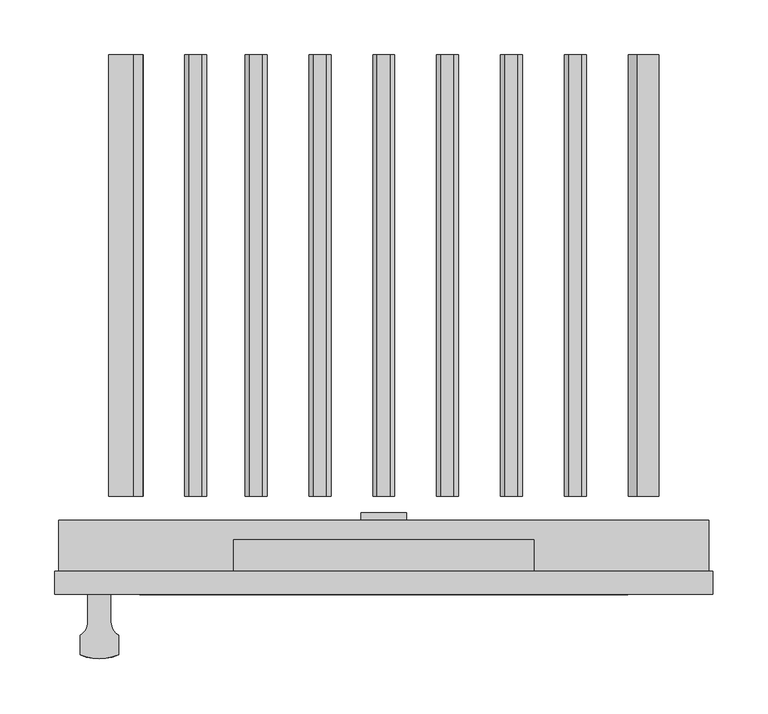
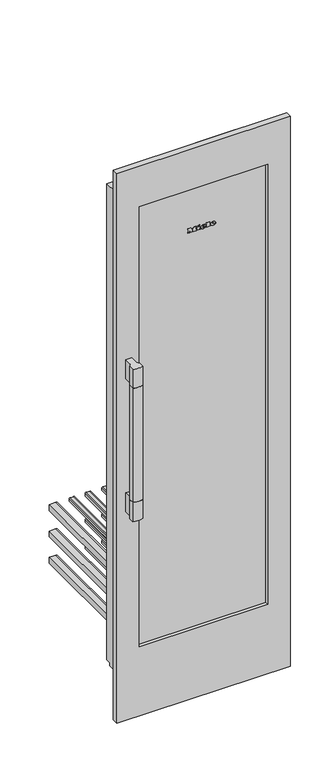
"""IFC4 building model written with IfcOpenShell, lengths in millimetres: proxy geometry, 11503620_USA_KWT2602SF : 36260215_USA_11503620_KWT2602SF."""

from ifc_helpers import new_model, si_unit, point, frame, frame_2d, origin, place, context, project, spatial, polyline, circle_curve, ellipse_curve, trimmed, segment, composite_curve, outline, extrude, faceted_brep, source, transform, mapped, element, save
from ifc_brep_helpers import plane_surface, cylinder_surface, revolved_surface, extruded_surface, advanced_brep


def specialty_equipment_13b0aeb5(model_context):
    return source(origin(), model_context, "Body", "SolidModel", [
        faceted_brep([(21.0, 75.0, 229.0), (6.5, 75.0, 229.0), (6.5, 75.0, 98.0), (-6.5, 75.0, 98.0), (-6.5, 75.0, 229.0), (-21.0, 75.0, 229.0), (-21.0, 75.0, 267.0), (21.0, 75.0, 267.0), (-21.0, 21.0, 270.0), (-21.0, 21.0, 229.0), (-6.5, 21.0, 229.0), (-6.5, 21.0, 98.0), (6.5, 21.0, 98.0), (6.5, 21.0, 229.0), (21.0, 21.0, 229.0), (21.0, 21.0, 270.0), (21.0, 68.0, 270.0), (-21.0, 68.0, 270.0), (21.0, 68.0, 267.0), (-21.0, 68.0, 267.0)], [[[0, 1, 2, 3, 4, 5, 6, 7]], [[8, 9, 10, 11, 12, 13, 14, 15]], [[8, 15, 16, 17]], [[15, 14, 0, 7, 18, 16]], [[1, 0, 14, 13]], [[2, 1, 13, 12]], [[3, 2, 12, 11]], [[4, 3, 11, 10]], [[5, 4, 10, 9]], [[9, 8, 17, 19, 6, 5]], [[19, 18, 7, 6]], [[18, 19, 17, 16]]]),
        extrude(outline(polyline([(-223.5, 32.0), (223.5, 32.0), (223.5, 12.0), (-223.5, 12.0), (-223.5, 32.0)])), frame((0.0, 0.0, 344.0), z_axis=(0.0, 0.0, 1.0), x_axis=(1.0, 0.0, 0.0)), (0.0, 0.0, 1.0), 1620.0),
        extrude(outline(polyline([(2113.0, 301.5), (2113.0, -301.5), (90.0, -301.5), (90.0, 301.5), (2113.0, 301.5)]), holes=[polyline([(1964.0, 223.5), (344.0, 223.5), (344.0, -223.5), (1964.0, -223.5), (1964.0, 223.5)])]), frame((0.0, 0.0, 0.0), z_axis=(0.0, 1.0, 0.0), x_axis=(0.0, 0.0, 1.0)), (0.0, 0.0, 1.0), 21.0),
        extrude(outline(polyline([(-137.5, 50.0), (137.5, 50.0), (137.5, 21.0), (-137.5, 21.0), (-137.5, 50.0)])), frame((0.0, 0.0, 2034.0), z_axis=(0.0, 0.0, 1.0), x_axis=(1.0, 0.0, 0.0)), (0.0, 0.0, 1.0), 56.0),
        faceted_brep([(-297.5, 68.0, 2034.0), (-297.5, 68.0, 281.0), (-297.5, 50.0, 281.0), (-297.5, 50.0, 270.0), (-297.5, 21.0, 270.0), (-297.5, 21.0, 2034.0), (297.5, 68.0, 2034.0), (297.5, 21.0, 2034.0), (297.5, 21.0, 270.0), (297.5, 50.0, 270.0), (297.5, 50.0, 281.0), (297.5, 68.0, 281.0), (223.5, 21.0, 1964.0), (223.5, 21.0, 344.0), (-223.5, 21.0, 344.0), (-223.5, 21.0, 1964.0), (223.5, 68.0, 344.0), (223.5, 68.0, 1964.0), (-223.5, 68.0, 1964.0), (-223.5, 68.0, 344.0)], [[[0, 1, 2, 3, 4, 5]], [[6, 7, 8, 9, 10, 11]], [[0, 5, 7, 6]], [[5, 4, 8, 7], [12, 13, 14, 15]], [[4, 3, 9, 8]], [[3, 2, 10, 9]], [[2, 1, 11, 10]], [[1, 0, 6, 11], [16, 17, 18, 19]], [[12, 17, 16, 13]], [[13, 16, 19, 14]], [[14, 19, 18, 15]], [[17, 12, 15, 18]]]),
        advanced_brep(
        [(-250.0, 0.0, 928.0), (-271.0, 0.0, 928.0), (-271.0, -24.4390599, 928.0), (-278.0, -37.4390599, 928.0), (-278.0, -55.0, 928.0), (-260.5, -59.0, 928.0), (-243.0, -55.0, 928.0), (-243.0, -37.4390599, 928.0), (-250.0, -24.4390599, 928.0), (-243.0, -37.4390599, 858.0), (-243.0, -55.0, 858.0), (-260.5, -59.0, 858.0), (-278.0, -55.0, 858.0), (-278.0, -37.4390599, 858.0), (-271.0, -24.4390599, 858.0), (-271.0, 0.0, 858.0), (-250.0, 0.0, 858.0), (-250.0, -24.4390599, 858.0)],
        [
            (0, 1),
            (1, 2),
            (2, 3, circle_curve(frame((-286.5714286, -24.4390599, 928.0), z_axis=(0.0, 0.0, -1.0), x_axis=(-1.0, 0.0, 0.0)), 15.5714286)),
            (3, 4),
            (4, 5, circle_curve(frame((-260.5, -18.71875, 928.0), z_axis=(0.0, 0.0, 1.0), x_axis=(-1.0, 0.0, 0.0)), 40.28125)),
            (5, 6, circle_curve(frame((-260.5, -18.71875, 928.0), z_axis=(0.0, 0.0, 1.0), x_axis=(-1.0, 0.0, 0.0)), 40.28125)),
            (6, 7),
            (7, 8, circle_curve(frame((-234.4285714, -24.4390599, 928.0), z_axis=(0.0, 0.0, -1.0), x_axis=(-1.0, 0.0, 0.0)), 15.5714286)),
            (8, 0),
            (9, 10),
            (10, 11, circle_curve(frame((-260.5, -18.71875, 858.0), z_axis=(0.0, 0.0, -1.0), x_axis=(-1.0, 0.0, 0.0)), 40.28125)),
            (11, 12, circle_curve(frame((-260.5, -18.71875, 858.0), z_axis=(0.0, 0.0, -1.0), x_axis=(-1.0, 0.0, 0.0)), 40.28125)),
            (12, 13),
            (13, 14, circle_curve(frame((-286.5714286, -24.4390599, 858.0), z_axis=(0.0, 0.0, 1.0), x_axis=(-1.0, 0.0, 0.0)), 15.5714286)),
            (14, 15),
            (15, 16),
            (16, 17),
            (17, 9, circle_curve(frame((-234.4285714, -24.4390599, 858.0), z_axis=(0.0, 0.0, 1.0), x_axis=(-1.0, 0.0, 0.0)), 15.5714286)),
            (0, 16),
            (15, 1),
            (3, 13),
            (12, 4),
            (6, 10),
            (9, 7),
            (14, 2),
            (8, 17),
        ],
        [
            plane_surface(frame((-278.0, 0.0, 928.0), z_axis=(0.0, 0.0, 1.0), x_axis=(-1.0, 0.0, 0.0))),
            plane_surface(frame((-278.0, 0.0, 858.0), z_axis=(0.0, 0.0, -1.0), x_axis=(1.0, 0.0, 0.0))),
            plane_surface(frame((-243.0, 0.0, 928.0), z_axis=(0.0, 1.0, 0.0), x_axis=(0.0, 0.0, -1.0))),
            plane_surface(frame((-278.0, 0.0, 928.0), z_axis=(-1.0, 0.0, 0.0), x_axis=(0.0, 0.0, -1.0))),
            plane_surface(frame((-243.0, -59.0, 928.0), z_axis=(1.0, 0.0, 0.0), x_axis=(0.0, 0.0, -1.0))),
            plane_surface(frame((-271.0, -24.4390599, 1418.0), z_axis=(-1.0, 0.0, 0.0), x_axis=(0.0, 0.0, -1.0))),
            plane_surface(frame((-250.0, 0.0, 1418.0), z_axis=(1.0, 0.0, 0.0), x_axis=(0.0, 0.0, -1.0))),
            cylinder_surface(frame((-260.5, -18.71875, 858.0), z_axis=(0.0, 0.0, -1.0), x_axis=(-1.0, 0.0, 0.0)), 40.28125),
            revolved_surface(polyline([(-302.1428572, -24.4390599, 928.0), (-302.1428572, -24.4390599, 858.0)]), (-286.5714286, -24.4390599, 858.0), (0.0, 0.0, 1.0)),
            revolved_surface(polyline([(-250.0, -24.4390599, 928.0), (-250.0, -24.4390599, 858.0)]), (-234.4285714, -24.4390599, 858.0), (0.0, 0.0, 1.0)),
        ],
        [
            (0, [[1, 2, 3, 4, 5, 6, 7, 8, 9]]),
            (1, [[10, 11, 12, 13, 14, 15, 16, 17, 18]]),
            (2, [[-1, 19, -16, 20]]),
            (3, [[-4, 21, -13, 22]]),
            (4, [[-7, 23, -10, 24]]),
            (5, [[25, -2, -20, -15]]),
            (6, [[26, -17, -19, -9]]),
            (7, [[-5, -22, -12, -11, -23, -6]]),
            (8, [[-25, -14, -21, -3]]),
            (9, [[-26, -8, -24, -18]]),
        ],
    ),
        advanced_brep(
        [(-243.0, -37.4390599, 928.0), (-243.0, -55.0, 928.0), (-260.5, -59.0, 928.0), (-278.0, -55.0, 928.0), (-278.0, -37.4390599, 928.0), (-276.1400312, -36.0, 928.0), (-244.8599688, -36.0, 928.0), (-244.8599688, -36.0, 1348.0), (-276.1400312, -36.0, 1348.0), (-278.0, -37.4390599, 1348.0), (-278.0, -55.0, 1348.0), (-260.5, -59.0, 1348.0), (-243.0, -55.0, 1348.0), (-243.0, -37.4390599, 1348.0)],
        [
            (0, 1),
            (1, 2, circle_curve(frame((-260.5, -18.71875, 928.0), z_axis=(0.0, 0.0, -1.0), x_axis=(-1.0, 0.0, 0.0)), 40.28125)),
            (2, 3, circle_curve(frame((-260.5, -18.71875, 928.0), z_axis=(0.0, 0.0, -1.0), x_axis=(-1.0, 0.0, 0.0)), 40.28125)),
            (3, 4),
            (4, 5, circle_curve(frame((-286.5714286, -24.4390599, 928.0), z_axis=(0.0, 0.0, 1.0), x_axis=(-1.0, 0.0, 0.0)), 15.5714286)),
            (5, 6),
            (6, 0, circle_curve(frame((-234.4285714, -24.4390599, 928.0), z_axis=(0.0, 0.0, 1.0), x_axis=(-1.0, 0.0, 0.0)), 15.5714286)),
            (7, 8),
            (8, 9, circle_curve(frame((-286.5714286, -24.4390599, 1348.0), z_axis=(0.0, 0.0, -1.0), x_axis=(-1.0, 0.0, 0.0)), 15.5714286)),
            (9, 10),
            (10, 11, circle_curve(frame((-260.5, -18.71875, 1348.0), z_axis=(0.0, 0.0, 1.0), x_axis=(-1.0, 0.0, 0.0)), 40.28125)),
            (11, 12, circle_curve(frame((-260.5, -18.71875, 1348.0), z_axis=(0.0, 0.0, 1.0), x_axis=(-1.0, 0.0, 0.0)), 40.28125)),
            (12, 13),
            (13, 7, circle_curve(frame((-234.4285714, -24.4390599, 1348.0), z_axis=(0.0, 0.0, -1.0), x_axis=(-1.0, 0.0, 0.0)), 15.5714286)),
            (0, 13),
            (12, 1),
            (3, 10),
            (9, 4),
            (5, 8),
            (7, 6),
        ],
        [
            plane_surface(frame((-243.0, -36.0, 928.0), z_axis=(0.0, 0.0, -1.0), x_axis=(0.0, -1.0, 0.0))),
            plane_surface(frame((-243.0, -36.0, 1348.0), z_axis=(0.0, 0.0, 1.0), x_axis=(0.0, 1.0, 0.0))),
            plane_surface(frame((-243.0, -36.0, 928.0), z_axis=(1.0, 0.0, 0.0), x_axis=(0.0, 0.0, 1.0))),
            plane_surface(frame((-278.0, -59.0, 928.0), z_axis=(-1.0, 0.0, 0.0), x_axis=(0.0, 0.0, 1.0))),
            plane_surface(frame((-278.0, -36.0, 928.0), z_axis=(0.0, 1.0, 0.0), x_axis=(0.0, 0.0, 1.0))),
            cylinder_surface(frame((-260.5, -18.71875, 858.0), z_axis=(0.0, 0.0, -1.0), x_axis=(-1.0, 0.0, 0.0)), 40.28125),
            revolved_surface(polyline([(-302.1428572, -24.4390599, 1348.0), (-302.1428572, -24.4390599, 928.0)]), (-286.5714286, -24.4390599, 858.0), (0.0, 0.0, 1.0)),
            revolved_surface(polyline([(-250.0, -24.4390599, 1348.0), (-250.0, -24.4390599, 928.0)]), (-234.4285714, -24.4390599, 858.0), (0.0, 0.0, 1.0)),
        ],
        [
            (0, [[1, 2, 3, 4, 5, 6, 7]]),
            (1, [[8, 9, 10, 11, 12, 13, 14]]),
            (2, [[-1, 15, -13, 16]]),
            (3, [[-4, 17, -10, 18]]),
            (4, [[-6, 19, -8, 20]]),
            (5, [[-2, -16, -12, -11, -17, -3]]),
            (6, [[-5, -18, -9, -19]]),
            (7, [[-7, -20, -14, -15]]),
        ],
    ),
        advanced_brep(
        [(-243.0, -37.4390599, 1348.0), (-243.0, -55.0, 1348.0), (-260.5, -59.0, 1348.0), (-278.0, -55.0, 1348.0), (-278.0, -37.4390599, 1348.0), (-271.0, -24.4390599, 1348.0), (-271.0, 0.0, 1348.0), (-250.0, 0.0, 1348.0), (-250.0, -24.4390599, 1348.0), (-250.0, 0.0, 1418.0), (-271.0, 0.0, 1418.0), (-271.0, -24.4390599, 1418.0), (-278.0, -37.4390599, 1418.0), (-278.0, -55.0, 1418.0), (-260.5, -59.0, 1418.0), (-243.0, -55.0, 1418.0), (-243.0, -37.4390599, 1418.0), (-250.0, -24.4390599, 1418.0)],
        [
            (0, 1),
            (1, 2, circle_curve(frame((-260.5, -18.71875, 1348.0), z_axis=(0.0, 0.0, -1.0), x_axis=(-1.0, 0.0, 0.0)), 40.28125)),
            (2, 3, circle_curve(frame((-260.5, -18.71875, 1348.0), z_axis=(0.0, 0.0, -1.0), x_axis=(-1.0, 0.0, 0.0)), 40.28125)),
            (3, 4),
            (4, 5, circle_curve(frame((-286.5714286, -24.4390599, 1348.0), z_axis=(0.0, 0.0, 1.0), x_axis=(-1.0, 0.0, 0.0)), 15.5714286)),
            (5, 6),
            (6, 7),
            (7, 8),
            (8, 0, circle_curve(frame((-234.4285714, -24.4390599, 1348.0), z_axis=(0.0, 0.0, 1.0), x_axis=(-1.0, 0.0, 0.0)), 15.5714286)),
            (9, 10),
            (10, 11),
            (11, 12, circle_curve(frame((-286.5714286, -24.4390599, 1418.0), z_axis=(0.0, 0.0, -1.0), x_axis=(-1.0, 0.0, 0.0)), 15.5714286)),
            (12, 13),
            (13, 14, circle_curve(frame((-260.5, -18.71875, 1418.0), z_axis=(0.0, 0.0, 1.0), x_axis=(-1.0, 0.0, 0.0)), 40.28125)),
            (14, 15, circle_curve(frame((-260.5, -18.71875, 1418.0), z_axis=(0.0, 0.0, 1.0), x_axis=(-1.0, 0.0, 0.0)), 40.28125)),
            (15, 16),
            (16, 17, circle_curve(frame((-234.4285714, -24.4390599, 1418.0), z_axis=(0.0, 0.0, -1.0), x_axis=(-1.0, 0.0, 0.0)), 15.5714286)),
            (17, 9),
            (6, 10),
            (9, 7),
            (3, 13),
            (12, 4),
            (0, 16),
            (15, 1),
            (5, 11),
            (17, 8),
        ],
        [
            plane_surface(frame((-278.0, 0.0, 1348.0), z_axis=(0.0, 0.0, -1.0), x_axis=(1.0, 0.0, 0.0))),
            plane_surface(frame((-278.0, 0.0, 1418.0), z_axis=(0.0, 0.0, 1.0), x_axis=(-1.0, 0.0, 0.0))),
            plane_surface(frame((-243.0, 0.0, 1418.0), z_axis=(0.0, 1.0, 0.0), x_axis=(0.0, 0.0, -1.0))),
            plane_surface(frame((-278.0, 0.0, 1418.0), z_axis=(-1.0, 0.0, 0.0), x_axis=(0.0, 0.0, -1.0))),
            plane_surface(frame((-243.0, -59.0, 1418.0), z_axis=(1.0, 0.0, 0.0), x_axis=(0.0, 0.0, -1.0))),
            plane_surface(frame((-271.0, -24.4390599, 1418.0), z_axis=(-1.0, 0.0, 0.0), x_axis=(0.0, 0.0, -1.0))),
            plane_surface(frame((-250.0, 0.0, 1418.0), z_axis=(1.0, 0.0, 0.0), x_axis=(0.0, 0.0, -1.0))),
            cylinder_surface(frame((-260.5, -18.71875, 858.0), z_axis=(0.0, 0.0, -1.0), x_axis=(-1.0, 0.0, 0.0)), 40.28125),
            revolved_surface(polyline([(-302.1428572, -24.4390599, 1418.0), (-302.1428572, -24.4390599, 1348.0)]), (-286.5714286, -24.4390599, 858.0), (0.0, 0.0, 1.0)),
            revolved_surface(polyline([(-250.0, -24.4390599, 1418.0), (-250.0, -24.4390599, 1348.0)]), (-234.4285714, -24.4390599, 858.0), (0.0, 0.0, 1.0)),
        ],
        [
            (0, [[1, 2, 3, 4, 5, 6, 7, 8, 9]]),
            (1, [[10, 11, 12, 13, 14, 15, 16, 17, 18]]),
            (2, [[-7, 19, -10, 20]]),
            (3, [[-4, 21, -13, 22]]),
            (4, [[-1, 23, -16, 24]]),
            (5, [[25, -11, -19, -6]]),
            (6, [[26, -8, -20, -18]]),
            (7, [[-2, -24, -15, -14, -21, -3]]),
            (8, [[-25, -5, -22, -12]]),
            (9, [[-26, -17, -23, -9]]),
        ],
    ),
        advanced_brep(
        [(38.22, 11.0, 1801.792), (38.22, 11.0, 1803.408), (48.924, 11.0, 1803.408), (30.3, 11.0, 1803.408), (34.7, 11.0, 1798.0), (48.652, 11.0, 1801.792), (43.82, 11.0, 1801.792), (40.012, 11.0, 1800.0), (38.22, 11.0, 1805.456), (38.22, 11.0, 1807.2), (40.956, 11.0, 1807.2), (40.956, 11.0, 1805.456), (38.22, 12.0, 1801.792), (40.012, 12.0, 1800.0), (43.82, 12.0, 1801.792), (48.652, 12.0, 1801.792), (34.7, 12.0, 1798.0), (30.3, 12.0, 1803.408), (48.924, 12.0, 1803.408), (38.22, 12.0, 1803.408), (38.22, 12.0, 1805.456), (40.956, 12.0, 1805.456), (40.956, 12.0, 1807.2), (38.22, 12.0, 1807.2)],
        [
            (0, 1),
            (1, 2),
            (2, 3, ellipse_curve(frame((39.612, 11.0, 1803.408), z_axis=(0.0, -1.0, 0.0), x_axis=(-1.0, 0.0, 0.0)), 9.312, 7.696)),
            (3, 4, circle_curve(frame((36.4920873, 11.0, 1803.952), z_axis=(0.0, -1.0, 0.0), x_axis=(0.0, 0.0, -1.0)), 6.2159376)),
            (4, 5, circle_curve(frame((39.4255872, 11.0, 1808.176), z_axis=(0.0, -1.0, 0.0), x_axis=(0.0, 0.0, -1.0)), 11.2197215)),
            (5, 6),
            (6, 7, circle_curve(frame((40.7941176, 11.0, 1803.28), z_axis=(0.0, 1.0, 0.0), x_axis=(0.0, 0.0, -1.0)), 3.3719591)),
            (7, 0, circle_curve(frame((40.012, 11.0, 1801.792), z_axis=(0.0, 1.0, 0.0), x_axis=(0.0, 0.0, -1.0)), 1.792)),
            (8, 9),
            (9, 10, circle_curve(frame((39.588, 11.0, 1807.2), z_axis=(0.0, 1.0, 0.0), x_axis=(0.0, 0.0, -1.0)), 1.368)),
            (10, 11),
            (11, 8),
            (12, 13, circle_curve(frame((40.012, 12.0, 1801.792), z_axis=(0.0, -1.0, 0.0), x_axis=(0.0, 0.0, -1.0)), 1.792)),
            (13, 14, circle_curve(frame((40.7941176, 12.0, 1803.28), z_axis=(0.0, -1.0, 0.0), x_axis=(0.0, 0.0, -1.0)), 3.3719591)),
            (14, 15),
            (15, 16, circle_curve(frame((39.4255872, 12.0, 1808.176), z_axis=(0.0, 1.0, 0.0), x_axis=(0.0, 0.0, -1.0)), 11.2197215)),
            (16, 17, circle_curve(frame((36.4920873, 12.0, 1803.952), z_axis=(0.0, 1.0, 0.0), x_axis=(0.0, 0.0, -1.0)), 6.2159376)),
            (17, 18, ellipse_curve(frame((39.612, 12.0, 1803.408), z_axis=(0.0, 1.0, 0.0), x_axis=(-1.0, 0.0, 0.0)), 9.312, 7.696)),
            (18, 19),
            (19, 12),
            (20, 21),
            (21, 22),
            (22, 23, circle_curve(frame((39.588, 12.0, 1807.2), z_axis=(0.0, -1.0, 0.0), x_axis=(0.0, 0.0, -1.0)), 1.368)),
            (23, 20),
            (0, 12),
            (19, 1),
            (18, 2),
            (5, 15),
            (14, 6),
            (17, 3),
            (13, 7),
            (16, 4),
            (8, 20),
            (23, 9),
            (22, 10),
            (21, 11),
        ],
        [
            plane_surface(frame((38.22, 11.0, 1803.408), z_axis=(0.0, -1.0, 0.0), x_axis=(0.0, 0.0, 1.0))),
            plane_surface(frame((38.22, 12.0, 1803.408), z_axis=(0.0, 1.0, 0.0), x_axis=(0.0, 0.0, -1.0))),
            plane_surface(frame((38.22, 11.0, 1801.792), z_axis=(1.0, 0.0, 0.0), x_axis=(0.0, 1.0, 0.0))),
            plane_surface(frame((38.22, 11.0, 1803.408), z_axis=(0.0, 0.0, -1.0), x_axis=(0.0, 1.0, 0.0))),
            plane_surface(frame((48.652, 11.0, 1801.792), z_axis=(0.0, 0.0, 1.0), x_axis=(0.0, 1.0, 0.0))),
            extruded_surface(trimmed(ellipse_curve(frame((39.612, 13.0, 1803.408), z_axis=(0.0, -1.0, 0.0), x_axis=(-1.0, 0.0, 0.0)), 9.312, 7.696), [point((48.924, 13.0, 1803.408))], [point((30.3, 13.0, 1803.408))], True, "CARTESIAN"), (0.0, -1.0, 0.0), 1.0),
            revolved_surface(polyline([(40.7941176, 12.0, 1799.9080409), (40.7941176, 11.0, 1799.9080409)]), (40.7941176, 12.0, 1803.28), (0.0, 1.0, 0.0)),
            revolved_surface(polyline([(40.012, 12.0, 1800.0), (40.012, 11.0, 1800.0)]), (40.012, 12.0, 1801.792), (0.0, 1.0, 0.0)),
            cylinder_surface(frame((36.4920873, 12.0, 1803.952), z_axis=(0.0, -1.0, 0.0), x_axis=(0.0, 0.0, -1.0)), 6.2159376),
            cylinder_surface(frame((39.4255872, 12.0, 1808.176), z_axis=(0.0, -1.0, 0.0), x_axis=(0.0, 0.0, -1.0)), 11.2197215),
            plane_surface(frame((38.22, 11.0, 1805.456), z_axis=(1.0, 0.0, 0.0), x_axis=(0.0, 1.0, 0.0))),
            revolved_surface(polyline([(39.588, 12.0, 1805.832), (39.588, 11.0, 1805.832)]), (39.588, 12.0, 1807.2), (0.0, 1.0, 0.0)),
            plane_surface(frame((40.956, 11.0, 1807.2), z_axis=(-1.0, 0.0, 0.0), x_axis=(0.0, 1.0, 0.0))),
            plane_surface(frame((40.956, 11.0, 1805.456), z_axis=(0.0, 0.0, 1.0), x_axis=(0.0, 1.0, 0.0))),
        ],
        [
            (0, [[1, 2, 3, 4, 5, 6, 7, 8], [9, 10, 11, 12]]),
            (1, [[13, 14, 15, 16, 17, 18, 19, 20], [21, 22, 23, 24]]),
            (2, [[-1, 25, -20, 26]]),
            (3, [[-2, -26, -19, 27]]),
            (4, [[-6, 28, -15, 29]]),
            (5, [[-3, -27, -18, 30]]),
            (6, [[-7, -29, -14, 31]]),
            (7, [[-8, -31, -13, -25]]),
            (8, [[-4, -30, -17, 32]]),
            (9, [[-5, -32, -16, -28]]),
            (10, [[-9, 33, -24, 34]]),
            (11, [[-10, -34, -23, 35]]),
            (12, [[-11, -35, -22, 36]]),
            (13, [[-12, -36, -21, -33]]),
        ],
    ),
        advanced_brep(
        [(4.828, 11.0, 1801.792), (4.828, 11.0, 1803.408), (15.532, 11.0, 1803.408), (-3.092, 11.0, 1803.408), (1.308, 11.0, 1798.0), (15.26, 11.0, 1801.792), (10.428, 11.0, 1801.792), (6.62, 11.0, 1800.0), (4.828, 11.0, 1805.456), (4.828, 11.0, 1807.2), (7.564, 11.0, 1807.2), (7.564, 11.0, 1805.456), (4.828, 12.0, 1801.792), (6.62, 12.0, 1800.0), (10.428, 12.0, 1801.792), (15.26, 12.0, 1801.792), (1.308, 12.0, 1798.0), (-3.092, 12.0, 1803.408), (15.532, 12.0, 1803.408), (4.828, 12.0, 1803.408), (4.828, 12.0, 1805.456), (7.564, 12.0, 1805.456), (7.564, 12.0, 1807.2), (4.828, 12.0, 1807.2)],
        [
            (0, 1),
            (1, 2),
            (2, 3, ellipse_curve(frame((6.22, 11.0, 1803.408), z_axis=(0.0, -1.0, 0.0), x_axis=(-1.0, 0.0, 0.0)), 9.312, 7.696)),
            (3, 4, circle_curve(frame((3.1000873, 11.0, 1803.952), z_axis=(0.0, -1.0, 0.0), x_axis=(0.0, 0.0, -1.0)), 6.2159376)),
            (4, 5, circle_curve(frame((6.0335872, 11.0, 1808.176), z_axis=(0.0, -1.0, 0.0), x_axis=(0.0, 0.0, -1.0)), 11.2197215)),
            (5, 6),
            (6, 7, circle_curve(frame((7.4021176, 11.0, 1803.28), z_axis=(0.0, 1.0, 0.0), x_axis=(0.0, 0.0, -1.0)), 3.3719591)),
            (7, 0, circle_curve(frame((6.62, 11.0, 1801.792), z_axis=(0.0, 1.0, 0.0), x_axis=(0.0, 0.0, -1.0)), 1.792)),
            (8, 9),
            (9, 10, circle_curve(frame((6.196, 11.0, 1807.2), z_axis=(0.0, 1.0, 0.0), x_axis=(0.0, 0.0, -1.0)), 1.368)),
            (10, 11),
            (11, 8),
            (12, 13, circle_curve(frame((6.62, 12.0, 1801.792), z_axis=(0.0, -1.0, 0.0), x_axis=(0.0, 0.0, -1.0)), 1.792)),
            (13, 14, circle_curve(frame((7.4021176, 12.0, 1803.28), z_axis=(0.0, -1.0, 0.0), x_axis=(0.0, 0.0, -1.0)), 3.3719591)),
            (14, 15),
            (15, 16, circle_curve(frame((6.0335872, 12.0, 1808.176), z_axis=(0.0, 1.0, 0.0), x_axis=(0.0, 0.0, -1.0)), 11.2197215)),
            (16, 17, circle_curve(frame((3.1000873, 12.0, 1803.952), z_axis=(0.0, 1.0, 0.0), x_axis=(0.0, 0.0, -1.0)), 6.2159376)),
            (17, 18, ellipse_curve(frame((6.22, 12.0, 1803.408), z_axis=(0.0, 1.0, 0.0), x_axis=(-1.0, 0.0, 0.0)), 9.312, 7.696)),
            (18, 19),
            (19, 12),
            (20, 21),
            (21, 22),
            (22, 23, circle_curve(frame((6.196, 12.0, 1807.2), z_axis=(0.0, -1.0, 0.0), x_axis=(0.0, 0.0, -1.0)), 1.368)),
            (23, 20),
            (0, 12),
            (19, 1),
            (18, 2),
            (5, 15),
            (14, 6),
            (17, 3),
            (13, 7),
            (16, 4),
            (8, 20),
            (23, 9),
            (22, 10),
            (21, 11),
        ],
        [
            plane_surface(frame((4.828, 11.0, 1803.408), z_axis=(0.0, -1.0, 0.0), x_axis=(0.0, 0.0, 1.0))),
            plane_surface(frame((4.828, 12.0, 1803.408), z_axis=(0.0, 1.0, 0.0), x_axis=(0.0, 0.0, -1.0))),
            plane_surface(frame((4.828, 11.0, 1801.792), z_axis=(1.0, 0.0, 0.0), x_axis=(0.0, 1.0, 0.0))),
            plane_surface(frame((4.828, 11.0, 1803.408), z_axis=(0.0, 0.0, -1.0), x_axis=(0.0, 1.0, 0.0))),
            plane_surface(frame((15.26, 11.0, 1801.792), z_axis=(0.0, 0.0, 1.0), x_axis=(0.0, 1.0, 0.0))),
            extruded_surface(trimmed(ellipse_curve(frame((6.22, 13.0, 1803.408), z_axis=(0.0, -1.0, 0.0), x_axis=(-1.0, 0.0, 0.0)), 9.312, 7.696), [point((15.532, 13.0, 1803.408))], [point((-3.092, 13.0, 1803.408))], True, "CARTESIAN"), (0.0, -1.0, 0.0), 1.0),
            revolved_surface(polyline([(7.4021176, 12.0, 1799.9080409), (7.4021176, 11.0, 1799.9080409)]), (7.4021176, 12.0, 1803.28), (0.0, 1.0, 0.0)),
            revolved_surface(polyline([(6.62, 12.0, 1800.0), (6.62, 11.0, 1800.0)]), (6.62, 12.0, 1801.792), (0.0, 1.0, 0.0)),
            cylinder_surface(frame((3.1000873, 12.0, 1803.952), z_axis=(0.0, -1.0, 0.0), x_axis=(0.0, 0.0, -1.0)), 6.2159376),
            cylinder_surface(frame((6.0335872, 12.0, 1808.176), z_axis=(0.0, -1.0, 0.0), x_axis=(0.0, 0.0, -1.0)), 11.2197215),
            plane_surface(frame((4.828, 11.0, 1805.456), z_axis=(1.0, 0.0, 0.0), x_axis=(0.0, 1.0, 0.0))),
            revolved_surface(polyline([(6.196, 12.0, 1805.832), (6.196, 11.0, 1805.832)]), (6.196, 12.0, 1807.2), (0.0, 1.0, 0.0)),
            plane_surface(frame((7.564, 11.0, 1807.2), z_axis=(-1.0, 0.0, 0.0), x_axis=(0.0, 1.0, 0.0))),
            plane_surface(frame((7.564, 11.0, 1805.456), z_axis=(0.0, 0.0, 1.0), x_axis=(0.0, 1.0, 0.0))),
        ],
        [
            (0, [[1, 2, 3, 4, 5, 6, 7, 8], [9, 10, 11, 12]]),
            (1, [[13, 14, 15, 16, 17, 18, 19, 20], [21, 22, 23, 24]]),
            (2, [[-1, 25, -20, 26]]),
            (3, [[-2, -26, -19, 27]]),
            (4, [[-6, 28, -15, 29]]),
            (5, [[-3, -27, -18, 30]]),
            (6, [[-7, -29, -14, 31]]),
            (7, [[-8, -31, -13, -25]]),
            (8, [[-4, -30, -17, 32]]),
            (9, [[-5, -32, -16, -28]]),
            (10, [[-9, 33, -24, 34]]),
            (11, [[-10, -34, -23, 35]]),
            (12, [[-11, -35, -22, 36]]),
            (13, [[-12, -36, -21, -33]]),
        ],
    ),
        extrude(outline(polyline([(1813.056, -12.66), (1810.464, -11.444), (1812.992, -6.02), (1815.584, -7.22), (1813.056, -12.66)])), frame((0.0, 11.0, 0.0), z_axis=(0.0, 1.0, 0.0), x_axis=(0.0, 0.0, 1.0)), (0.0, 0.0, 1.0), 1.0),
        extrude(outline(polyline([(1810.112, -16.612), (1807.248, -16.612), (1807.248, -14.708), (1800.688, -14.708), (1800.688, -16.612), (1798.0, -16.612), (1798.0, -3.988), (1800.688, -3.988), (1800.688, -5.844), (1810.112, -5.844), (1810.112, -16.612)])), frame((0.0, 11.0, 0.0), z_axis=(0.0, 1.0, 0.0), x_axis=(0.0, 0.0, 1.0)), (0.0, 0.0, 1.0), 1.0),
        extrude(outline(polyline([(1811.392, 16.428), (1811.392, 18.348), (1800.688, 18.348), (1800.688, 16.428), (1798.0, 16.428), (1798.0, 29.404), (1800.688, 29.404), (1800.688, 27.436), (1814.0, 27.436), (1814.0, 16.428), (1811.392, 16.428)])), frame((0.0, 11.0, 0.0), z_axis=(0.0, 1.0, 0.0), x_axis=(0.0, 0.0, 1.0)), (0.0, 0.0, 1.0), 1.0),
        extrude(outline(polyline([(1811.392, -48.5), (1811.392, -46.564), (1800.688, -46.564), (1800.688, -48.5), (1798.0, -48.5), (1798.0, -41.46), (1800.688, -41.46), (1800.688, -43.38), (1807.4431247, -43.38), (1798.0, -36.228), (1807.8152223, -29.044), (1800.688, -29.044), (1800.688, -31.012), (1798.0, -31.012), (1798.0, -18.244), (1800.688, -18.244), (1800.688, -20.276), (1811.392, -20.276), (1811.392, -18.244), (1814.0, -18.244), (1814.0, -27.988), (1808.0, -32.66), (1814.0, -37.348), (1814.0, -48.5), (1811.392, -48.5)])), frame((0.0, 11.0, 0.0), z_axis=(0.0, 1.0, 0.0), x_axis=(0.0, 0.0, 1.0)), (0.0, 0.0, 1.0), 1.0),
        extrude(outline(composite_curve([segment(polyline([(384.0, -252.0), (362.0, -252.0), (362.0, -229.0)]), True, "CONTINUOUS"), segment(trimmed(circle_curve(frame_2d((370.425484, -229.0)), 8.425484), [point((362.0, -229.0))], [point((370.425484, -220.574516))], False, "CARTESIAN"), True, "CONTINUOUS"), segment(polyline([(370.425484, -220.574516), (375.574516, -220.574516)]), True, "CONTINUOUS"), segment(trimmed(circle_curve(frame_2d((375.574516, -229.0)), 8.425484), [point((375.574516, -220.574516))], [point((384.0, -229.0))], False, "CARTESIAN"), True, "CONTINUOUS"), segment(polyline([(384.0, -229.0), (384.0, -252.0)]), True, "CONTINUOUS")], self_intersect=False)), frame((0.0, 90.0, 0.0), z_axis=(0.0, 1.0, 0.0), x_axis=(0.0, 0.0, 1.0)), (0.0, 0.0, 1.0), 404.0),
        extrude(outline(composite_curve([segment(polyline([(380.0, -182.074516), (372.039218, -182.074516), (372.039218, -162.074516), (380.0, -162.074516)]), True, "CONTINUOUS"), segment(trimmed(circle_curve(frame_2d((380.0, -166.074516)), 4.0), [point((380.0, -162.074516))], [point((384.0, -166.074516))], False, "CARTESIAN"), True, "CONTINUOUS"), segment(polyline([(384.0, -166.074516), (384.0, -178.074516)]), True, "CONTINUOUS"), segment(trimmed(circle_curve(frame_2d((380.0, -178.074516)), 4.0), [point((384.0, -178.074516))], [point((380.0, -182.074516))], False, "CARTESIAN"), True, "CONTINUOUS")], self_intersect=False)), frame((0.0, 90.0, 0.0), z_axis=(0.0, 1.0, 0.0), x_axis=(0.0, 0.0, 1.0)), (0.0, 0.0, 1.0), 404.0),
        extrude(outline(composite_curve([segment(polyline([(384.0, 252.0), (384.0, 232.425484)]), True, "CONTINUOUS"), segment(trimmed(circle_curve(frame_2d((375.574516, 232.425484)), 8.425484), [point((384.0, 232.425484))], [point((375.574516, 224.0))], False, "CARTESIAN"), True, "CONTINUOUS"), segment(polyline([(375.574516, 224.0), (367.0, 224.0)]), True, "CONTINUOUS"), segment(trimmed(circle_curve(frame_2d((367.0, 229.0)), 5.0), [point((367.0, 224.0))], [point((362.0, 229.0))], False, "CARTESIAN"), True, "CONTINUOUS"), segment(polyline([(362.0, 229.0), (362.0, 252.0), (384.0, 252.0)]), True, "CONTINUOUS")], self_intersect=False)), frame((0.0, 90.0, 0.0), z_axis=(0.0, 1.0, 0.0), x_axis=(0.0, 0.0, 1.0)), (0.0, 0.0, 1.0), 404.0),
        extrude(outline(composite_curve([segment(polyline([(380.0, -127.0), (372.039218, -127.0), (372.039218, -107.0), (380.0, -107.0)]), True, "CONTINUOUS"), segment(trimmed(circle_curve(frame_2d((380.0, -111.0)), 4.0), [point((380.0, -107.0))], [point((384.0, -111.0))], False, "CARTESIAN"), True, "CONTINUOUS"), segment(polyline([(384.0, -111.0), (384.0, -123.0)]), True, "CONTINUOUS"), segment(trimmed(circle_curve(frame_2d((380.0, -123.0)), 4.0), [point((384.0, -123.0))], [point((380.0, -127.0))], False, "CARTESIAN"), True, "CONTINUOUS")], self_intersect=False)), frame((0.0, 90.0, 0.0), z_axis=(0.0, 1.0, 0.0), x_axis=(0.0, 0.0, 1.0)), (0.0, 0.0, 1.0), 404.0),
        extrude(outline(composite_curve([segment(polyline([(380.0, -68.5), (372.039218, -68.5), (372.039218, -48.5), (380.0, -48.5)]), True, "CONTINUOUS"), segment(trimmed(circle_curve(frame_2d((380.0, -52.5)), 4.0), [point((380.0, -48.5))], [point((384.0, -52.5))], False, "CARTESIAN"), True, "CONTINUOUS"), segment(polyline([(384.0, -52.5), (384.0, -64.5)]), True, "CONTINUOUS"), segment(trimmed(circle_curve(frame_2d((380.0, -64.5)), 4.0), [point((384.0, -64.5))], [point((380.0, -68.5))], False, "CARTESIAN"), True, "CONTINUOUS")], self_intersect=False)), frame((0.0, 90.0, 0.0), z_axis=(0.0, 1.0, 0.0), x_axis=(0.0, 0.0, 1.0)), (0.0, 0.0, 1.0), 404.0),
        extrude(outline(composite_curve([segment(polyline([(380.0, -10.0), (372.039218, -10.0), (372.039218, 10.0), (380.0, 10.0)]), True, "CONTINUOUS"), segment(trimmed(circle_curve(frame_2d((380.0, 6.0)), 4.0), [point((380.0, 10.0))], [point((384.0, 6.0))], False, "CARTESIAN"), True, "CONTINUOUS"), segment(polyline([(384.0, 6.0), (384.0, -6.0)]), True, "CONTINUOUS"), segment(trimmed(circle_curve(frame_2d((380.0, -6.0)), 4.0), [point((384.0, -6.0))], [point((380.0, -10.0))], False, "CARTESIAN"), True, "CONTINUOUS")], self_intersect=False)), frame((0.0, 90.0, 0.0), z_axis=(0.0, 1.0, 0.0), x_axis=(0.0, 0.0, 1.0)), (0.0, 0.0, 1.0), 404.0),
        extrude(outline(composite_curve([segment(polyline([(380.0, 48.5), (372.039218, 48.5), (372.039218, 68.5), (380.0, 68.5)]), True, "CONTINUOUS"), segment(trimmed(circle_curve(frame_2d((380.0, 64.5)), 4.0), [point((380.0, 68.5))], [point((384.0, 64.5))], False, "CARTESIAN"), True, "CONTINUOUS"), segment(polyline([(384.0, 64.5), (384.0, 52.5)]), True, "CONTINUOUS"), segment(trimmed(circle_curve(frame_2d((380.0, 52.5)), 4.0), [point((384.0, 52.5))], [point((380.0, 48.5))], False, "CARTESIAN"), True, "CONTINUOUS")], self_intersect=False)), frame((0.0, 90.0, 0.0), z_axis=(0.0, 1.0, 0.0), x_axis=(0.0, 0.0, 1.0)), (0.0, 0.0, 1.0), 404.0),
        extrude(outline(composite_curve([segment(polyline([(380.0, 107.0), (372.039218, 107.0), (372.039218, 127.0), (380.0, 127.0)]), True, "CONTINUOUS"), segment(trimmed(circle_curve(frame_2d((380.0, 123.0)), 4.0), [point((380.0, 127.0))], [point((384.0, 123.0))], False, "CARTESIAN"), True, "CONTINUOUS"), segment(polyline([(384.0, 123.0), (384.0, 111.0)]), True, "CONTINUOUS"), segment(trimmed(circle_curve(frame_2d((380.0, 111.0)), 4.0), [point((384.0, 111.0))], [point((380.0, 107.0))], False, "CARTESIAN"), True, "CONTINUOUS")], self_intersect=False)), frame((0.0, 90.0, 0.0), z_axis=(0.0, 1.0, 0.0), x_axis=(0.0, 0.0, 1.0)), (0.0, 0.0, 1.0), 404.0),
        extrude(outline(composite_curve([segment(polyline([(380.0, 165.5), (372.039218, 165.5), (372.039218, 185.5), (380.0, 185.5)]), True, "CONTINUOUS"), segment(trimmed(circle_curve(frame_2d((380.0, 181.5)), 4.0), [point((380.0, 185.5))], [point((384.0, 181.5))], False, "CARTESIAN"), True, "CONTINUOUS"), segment(polyline([(384.0, 181.5), (384.0, 169.5)]), True, "CONTINUOUS"), segment(trimmed(circle_curve(frame_2d((380.0, 169.5)), 4.0), [point((384.0, 169.5))], [point((380.0, 165.5))], False, "CARTESIAN"), True, "CONTINUOUS")], self_intersect=False)), frame((0.0, 90.0, 0.0), z_axis=(0.0, 1.0, 0.0), x_axis=(0.0, 0.0, 1.0)), (0.0, 0.0, 1.0), 404.0),
        extrude(outline(composite_curve([segment(polyline([(481.0, -252.0), (459.0, -252.0), (459.0, -229.0)]), True, "CONTINUOUS"), segment(trimmed(circle_curve(frame_2d((467.4449316, -229.0)), 8.4449316), [point((459.0, -229.0))], [point((467.4449316, -220.5550684))], False, "CARTESIAN"), True, "CONTINUOUS"), segment(polyline([(467.4449316, -220.5550684), (472.5550684, -220.5550684)]), True, "CONTINUOUS"), segment(trimmed(circle_curve(frame_2d((472.5550684, -229.0)), 8.4449316), [point((472.5550684, -220.5550684))], [point((481.0, -229.0))], False, "CARTESIAN"), True, "CONTINUOUS"), segment(polyline([(481.0, -229.0), (481.0, -252.0)]), True, "CONTINUOUS")], self_intersect=False)), frame((0.0, 90.0, 0.0), z_axis=(0.0, 1.0, 0.0), x_axis=(0.0, 0.0, 1.0)), (0.0, 0.0, 1.0), 404.0),
        extrude(outline(composite_curve([segment(polyline([(477.0, -182.0550684), (469.039218, -182.0550684), (469.039218, -162.0550684), (477.0, -162.0550684)]), True, "CONTINUOUS"), segment(trimmed(circle_curve(frame_2d((477.0, -166.0550684)), 4.0), [point((477.0, -162.0550684))], [point((481.0, -166.0550684))], False, "CARTESIAN"), True, "CONTINUOUS"), segment(polyline([(481.0, -166.0550684), (481.0, -178.0550684)]), True, "CONTINUOUS"), segment(trimmed(circle_curve(frame_2d((477.0, -178.0550684)), 4.0), [point((481.0, -178.0550684))], [point((477.0, -182.0550684))], False, "CARTESIAN"), True, "CONTINUOUS")], self_intersect=False)), frame((0.0, 90.0, 0.0), z_axis=(0.0, 1.0, 0.0), x_axis=(0.0, 0.0, 1.0)), (0.0, 0.0, 1.0), 404.0),
        extrude(outline(composite_curve([segment(polyline([(481.0, 252.0), (481.0, 232.4449316)]), True, "CONTINUOUS"), segment(trimmed(circle_curve(frame_2d((472.5550684, 232.4449316)), 8.4449316), [point((481.0, 232.4449316))], [point((472.5550684, 224.0))], False, "CARTESIAN"), True, "CONTINUOUS"), segment(polyline([(472.5550684, 224.0), (464.0, 224.0)]), True, "CONTINUOUS"), segment(trimmed(circle_curve(frame_2d((464.0, 229.0)), 5.0), [point((464.0, 224.0))], [point((459.0, 229.0))], False, "CARTESIAN"), True, "CONTINUOUS"), segment(polyline([(459.0, 229.0), (459.0, 252.0), (481.0, 252.0)]), True, "CONTINUOUS")], self_intersect=False)), frame((0.0, 90.0, 0.0), z_axis=(0.0, 1.0, 0.0), x_axis=(0.0, 0.0, 1.0)), (0.0, 0.0, 1.0), 404.0),
        extrude(outline(composite_curve([segment(polyline([(477.0, -127.0), (469.039218, -127.0), (469.039218, -107.0), (477.0, -107.0)]), True, "CONTINUOUS"), segment(trimmed(circle_curve(frame_2d((477.0, -111.0)), 4.0), [point((477.0, -107.0))], [point((481.0, -111.0))], False, "CARTESIAN"), True, "CONTINUOUS"), segment(polyline([(481.0, -111.0), (481.0, -123.0)]), True, "CONTINUOUS"), segment(trimmed(circle_curve(frame_2d((477.0, -123.0)), 4.0), [point((481.0, -123.0))], [point((477.0, -127.0))], False, "CARTESIAN"), True, "CONTINUOUS")], self_intersect=False)), frame((0.0, 90.0, 0.0), z_axis=(0.0, 1.0, 0.0), x_axis=(0.0, 0.0, 1.0)), (0.0, 0.0, 1.0), 404.0),
        extrude(outline(composite_curve([segment(polyline([(477.0, -68.5), (469.039218, -68.5), (469.039218, -48.5), (477.0, -48.5)]), True, "CONTINUOUS"), segment(trimmed(circle_curve(frame_2d((477.0, -52.5)), 4.0), [point((477.0, -48.5))], [point((481.0, -52.5))], False, "CARTESIAN"), True, "CONTINUOUS"), segment(polyline([(481.0, -52.5), (481.0, -64.5)]), True, "CONTINUOUS"), segment(trimmed(circle_curve(frame_2d((477.0, -64.5)), 4.0), [point((481.0, -64.5))], [point((477.0, -68.5))], False, "CARTESIAN"), True, "CONTINUOUS")], self_intersect=False)), frame((0.0, 90.0, 0.0), z_axis=(0.0, 1.0, 0.0), x_axis=(0.0, 0.0, 1.0)), (0.0, 0.0, 1.0), 404.0),
        extrude(outline(composite_curve([segment(polyline([(477.0, -10.0), (469.039218, -10.0), (469.039218, 10.0), (477.0, 10.0)]), True, "CONTINUOUS"), segment(trimmed(circle_curve(frame_2d((477.0, 6.0)), 4.0), [point((477.0, 10.0))], [point((481.0, 6.0))], False, "CARTESIAN"), True, "CONTINUOUS"), segment(polyline([(481.0, 6.0), (481.0, -6.0)]), True, "CONTINUOUS"), segment(trimmed(circle_curve(frame_2d((477.0, -6.0)), 4.0), [point((481.0, -6.0))], [point((477.0, -10.0))], False, "CARTESIAN"), True, "CONTINUOUS")], self_intersect=False)), frame((0.0, 90.0, 0.0), z_axis=(0.0, 1.0, 0.0), x_axis=(0.0, 0.0, 1.0)), (0.0, 0.0, 1.0), 404.0),
        extrude(outline(composite_curve([segment(polyline([(477.0, 48.5), (469.039218, 48.5), (469.039218, 68.5), (477.0, 68.5)]), True, "CONTINUOUS"), segment(trimmed(circle_curve(frame_2d((477.0, 64.5)), 4.0), [point((477.0, 68.5))], [point((481.0, 64.5))], False, "CARTESIAN"), True, "CONTINUOUS"), segment(polyline([(481.0, 64.5), (481.0, 52.5)]), True, "CONTINUOUS"), segment(trimmed(circle_curve(frame_2d((477.0, 52.5)), 4.0), [point((481.0, 52.5))], [point((477.0, 48.5))], False, "CARTESIAN"), True, "CONTINUOUS")], self_intersect=False)), frame((0.0, 90.0, 0.0), z_axis=(0.0, 1.0, 0.0), x_axis=(0.0, 0.0, 1.0)), (0.0, 0.0, 1.0), 404.0),
        extrude(outline(composite_curve([segment(polyline([(477.0, 107.0), (469.039218, 107.0), (469.039218, 127.0), (477.0, 127.0)]), True, "CONTINUOUS"), segment(trimmed(circle_curve(frame_2d((477.0, 123.0)), 4.0), [point((477.0, 127.0))], [point((481.0, 123.0))], False, "CARTESIAN"), True, "CONTINUOUS"), segment(polyline([(481.0, 123.0), (481.0, 111.0)]), True, "CONTINUOUS"), segment(trimmed(circle_curve(frame_2d((477.0, 111.0)), 4.0), [point((481.0, 111.0))], [point((477.0, 107.0))], False, "CARTESIAN"), True, "CONTINUOUS")], self_intersect=False)), frame((0.0, 90.0, 0.0), z_axis=(0.0, 1.0, 0.0), x_axis=(0.0, 0.0, 1.0)), (0.0, 0.0, 1.0), 404.0),
        extrude(outline(composite_curve([segment(polyline([(477.0, 165.5), (469.039218, 165.5), (469.039218, 185.5), (477.0, 185.5)]), True, "CONTINUOUS"), segment(trimmed(circle_curve(frame_2d((477.0, 181.5)), 4.0), [point((477.0, 185.5))], [point((481.0, 181.5))], False, "CARTESIAN"), True, "CONTINUOUS"), segment(polyline([(481.0, 181.5), (481.0, 169.5)]), True, "CONTINUOUS"), segment(trimmed(circle_curve(frame_2d((477.0, 169.5)), 4.0), [point((481.0, 169.5))], [point((477.0, 165.5))], False, "CARTESIAN"), True, "CONTINUOUS")], self_intersect=False)), frame((0.0, 90.0, 0.0), z_axis=(0.0, 1.0, 0.0), x_axis=(0.0, 0.0, 1.0)), (0.0, 0.0, 1.0), 404.0),
        extrude(outline(composite_curve([segment(polyline([(578.0, -252.0), (556.0, -252.0), (556.0, -229.0)]), True, "CONTINUOUS"), segment(trimmed(circle_curve(frame_2d((564.119775, -229.0)), 8.119775), [point((556.0, -229.0))], [point((564.119775, -220.880225))], False, "CARTESIAN"), True, "CONTINUOUS"), segment(polyline([(564.119775, -220.880225), (569.880225, -220.880225)]), True, "CONTINUOUS"), segment(trimmed(circle_curve(frame_2d((569.880225, -229.0)), 8.119775), [point((569.880225, -220.880225))], [point((578.0, -229.0))], False, "CARTESIAN"), True, "CONTINUOUS"), segment(polyline([(578.0, -229.0), (578.0, -252.0)]), True, "CONTINUOUS")], self_intersect=False)), frame((0.0, 90.0, 0.0), z_axis=(0.0, 1.0, 0.0), x_axis=(0.0, 0.0, 1.0)), (0.0, 0.0, 1.0), 404.0),
        extrude(outline(composite_curve([segment(polyline([(574.0, -182.380225), (566.039218, -182.380225), (566.039218, -162.380225), (574.0, -162.380225)]), True, "CONTINUOUS"), segment(trimmed(circle_curve(frame_2d((574.0, -166.380225)), 4.0), [point((574.0, -162.380225))], [point((578.0, -166.380225))], False, "CARTESIAN"), True, "CONTINUOUS"), segment(polyline([(578.0, -166.380225), (578.0, -178.380225)]), True, "CONTINUOUS"), segment(trimmed(circle_curve(frame_2d((574.0, -178.380225)), 4.0), [point((578.0, -178.380225))], [point((574.0, -182.380225))], False, "CARTESIAN"), True, "CONTINUOUS")], self_intersect=False)), frame((0.0, 90.0, 0.0), z_axis=(0.0, 1.0, 0.0), x_axis=(0.0, 0.0, 1.0)), (0.0, 0.0, 1.0), 404.0),
        extrude(outline(composite_curve([segment(polyline([(578.0, 252.0), (578.0, 232.119775)]), True, "CONTINUOUS"), segment(trimmed(circle_curve(frame_2d((569.880225, 232.119775)), 8.119775), [point((578.0, 232.119775))], [point((569.880225, 224.0))], False, "CARTESIAN"), True, "CONTINUOUS"), segment(polyline([(569.880225, 224.0), (561.0, 224.0)]), True, "CONTINUOUS"), segment(trimmed(circle_curve(frame_2d((561.0, 229.0)), 5.0), [point((561.0, 224.0))], [point((556.0, 229.0))], False, "CARTESIAN"), True, "CONTINUOUS"), segment(polyline([(556.0, 229.0), (556.0, 252.0), (578.0, 252.0)]), True, "CONTINUOUS")], self_intersect=False)), frame((0.0, 90.0, 0.0), z_axis=(0.0, 1.0, 0.0), x_axis=(0.0, 0.0, 1.0)), (0.0, 0.0, 1.0), 404.0),
        extrude(outline(composite_curve([segment(polyline([(574.0, -127.0), (566.039218, -127.0), (566.039218, -107.0), (574.0, -107.0)]), True, "CONTINUOUS"), segment(trimmed(circle_curve(frame_2d((574.0, -111.0)), 4.0), [point((574.0, -107.0))], [point((578.0, -111.0))], False, "CARTESIAN"), True, "CONTINUOUS"), segment(polyline([(578.0, -111.0), (578.0, -123.0)]), True, "CONTINUOUS"), segment(trimmed(circle_curve(frame_2d((574.0, -123.0)), 4.0), [point((578.0, -123.0))], [point((574.0, -127.0))], False, "CARTESIAN"), True, "CONTINUOUS")], self_intersect=False)), frame((0.0, 90.0, 0.0), z_axis=(0.0, 1.0, 0.0), x_axis=(0.0, 0.0, 1.0)), (0.0, 0.0, 1.0), 404.0),
        extrude(outline(composite_curve([segment(polyline([(574.0, -68.5), (566.039218, -68.5), (566.039218, -48.5), (574.0, -48.5)]), True, "CONTINUOUS"), segment(trimmed(circle_curve(frame_2d((574.0, -52.5)), 4.0), [point((574.0, -48.5))], [point((578.0, -52.5))], False, "CARTESIAN"), True, "CONTINUOUS"), segment(polyline([(578.0, -52.5), (578.0, -64.5)]), True, "CONTINUOUS"), segment(trimmed(circle_curve(frame_2d((574.0, -64.5)), 4.0), [point((578.0, -64.5))], [point((574.0, -68.5))], False, "CARTESIAN"), True, "CONTINUOUS")], self_intersect=False)), frame((0.0, 90.0, 0.0), z_axis=(0.0, 1.0, 0.0), x_axis=(0.0, 0.0, 1.0)), (0.0, 0.0, 1.0), 404.0),
        extrude(outline(composite_curve([segment(polyline([(574.0, -10.0), (566.039218, -10.0), (566.039218, 10.0), (574.0, 10.0)]), True, "CONTINUOUS"), segment(trimmed(circle_curve(frame_2d((574.0, 6.0)), 4.0), [point((574.0, 10.0))], [point((578.0, 6.0))], False, "CARTESIAN"), True, "CONTINUOUS"), segment(polyline([(578.0, 6.0), (578.0, -6.0)]), True, "CONTINUOUS"), segment(trimmed(circle_curve(frame_2d((574.0, -6.0)), 4.0), [point((578.0, -6.0))], [point((574.0, -10.0))], False, "CARTESIAN"), True, "CONTINUOUS")], self_intersect=False)), frame((0.0, 90.0, 0.0), z_axis=(0.0, 1.0, 0.0), x_axis=(0.0, 0.0, 1.0)), (0.0, 0.0, 1.0), 404.0),
        extrude(outline(composite_curve([segment(polyline([(574.0, 48.5), (566.039218, 48.5), (566.039218, 68.5), (574.0, 68.5)]), True, "CONTINUOUS"), segment(trimmed(circle_curve(frame_2d((574.0, 64.5)), 4.0), [point((574.0, 68.5))], [point((578.0, 64.5))], False, "CARTESIAN"), True, "CONTINUOUS"), segment(polyline([(578.0, 64.5), (578.0, 52.5)]), True, "CONTINUOUS"), segment(trimmed(circle_curve(frame_2d((574.0, 52.5)), 4.0), [point((578.0, 52.5))], [point((574.0, 48.5))], False, "CARTESIAN"), True, "CONTINUOUS")], self_intersect=False)), frame((0.0, 90.0, 0.0), z_axis=(0.0, 1.0, 0.0), x_axis=(0.0, 0.0, 1.0)), (0.0, 0.0, 1.0), 404.0),
        extrude(outline(composite_curve([segment(polyline([(574.0, 107.0), (566.039218, 107.0), (566.039218, 127.0), (574.0, 127.0)]), True, "CONTINUOUS"), segment(trimmed(circle_curve(frame_2d((574.0, 123.0)), 4.0), [point((574.0, 127.0))], [point((578.0, 123.0))], False, "CARTESIAN"), True, "CONTINUOUS"), segment(polyline([(578.0, 123.0), (578.0, 111.0)]), True, "CONTINUOUS"), segment(trimmed(circle_curve(frame_2d((574.0, 111.0)), 4.0), [point((578.0, 111.0))], [point((574.0, 107.0))], False, "CARTESIAN"), True, "CONTINUOUS")], self_intersect=False)), frame((0.0, 90.0, 0.0), z_axis=(0.0, 1.0, 0.0), x_axis=(0.0, 0.0, 1.0)), (0.0, 0.0, 1.0), 404.0),
        extrude(outline(composite_curve([segment(polyline([(574.0, 165.5), (566.039218, 165.5), (566.039218, 185.5), (574.0, 185.5)]), True, "CONTINUOUS"), segment(trimmed(circle_curve(frame_2d((574.0, 181.5)), 4.0), [point((574.0, 185.5))], [point((578.0, 181.5))], False, "CARTESIAN"), True, "CONTINUOUS"), segment(polyline([(578.0, 181.5), (578.0, 169.5)]), True, "CONTINUOUS"), segment(trimmed(circle_curve(frame_2d((574.0, 169.5)), 4.0), [point((578.0, 169.5))], [point((574.0, 165.5))], False, "CARTESIAN"), True, "CONTINUOUS")], self_intersect=False)), frame((0.0, 90.0, 0.0), z_axis=(0.0, 1.0, 0.0), x_axis=(0.0, 0.0, 1.0)), (0.0, 0.0, 1.0), 404.0),
    ])


if __name__ == "__main__":
    model = new_model("IFC4")
    model_context = context("Model", 3, world=origin())
    ifc_project = project(units=[si_unit("LENGTHUNIT", "METRE", prefix="MILLI")], contexts=[model_context])
    site = spatial("IfcSite", under=ifc_project)
    building = spatial("IfcBuilding", under=site)
    placement = place(None, origin())
    specialty_equipment_shape = specialty_equipment_13b0aeb5(model_context)
    element("IfcBuildingElementProxy", 1, Name="11503620_USA_KWT2602SF : 36260215_USA_11503620_KWT2602SF", ObjectType="11503620_USA_KWT2602SF : 36260215_USA_11503620_KWT2602SF", at=placement, inside=building, context=model_context, shape_type="MappedRepresentation", body=[
        mapped(specialty_equipment_shape, transform((0.0, 0.0, 0.0), x_axis=(1.0, 0.0, 0.0), y_axis=(0.0, 1.0, 0.0), z_axis=(0.0, 0.0, 1.0))),
    ])
    save(model, "model.ifc")
